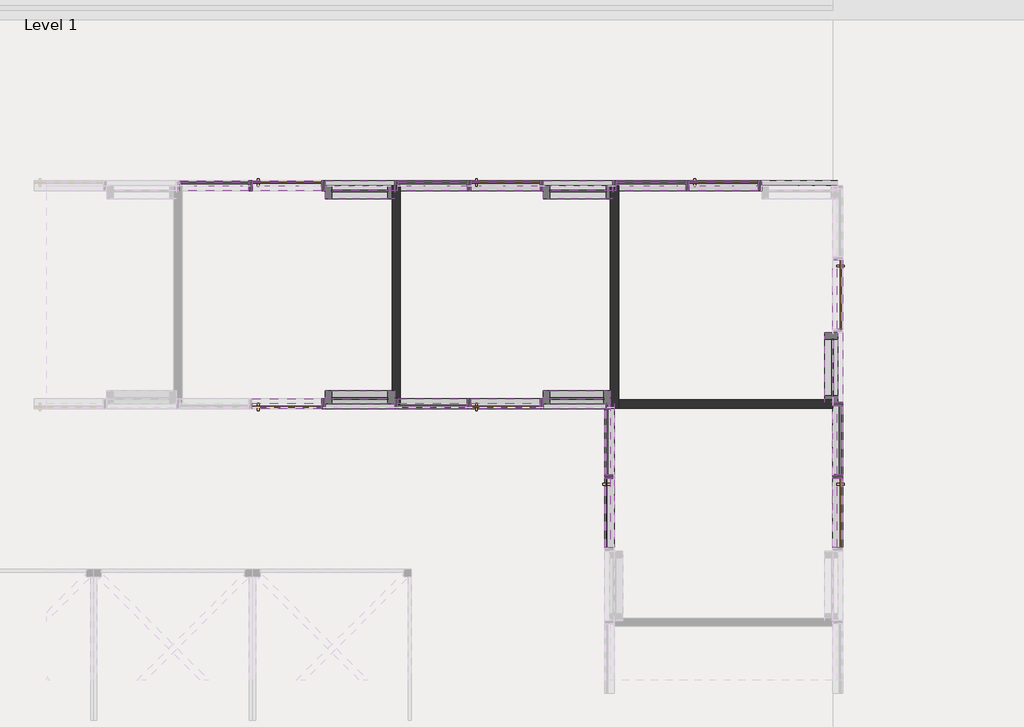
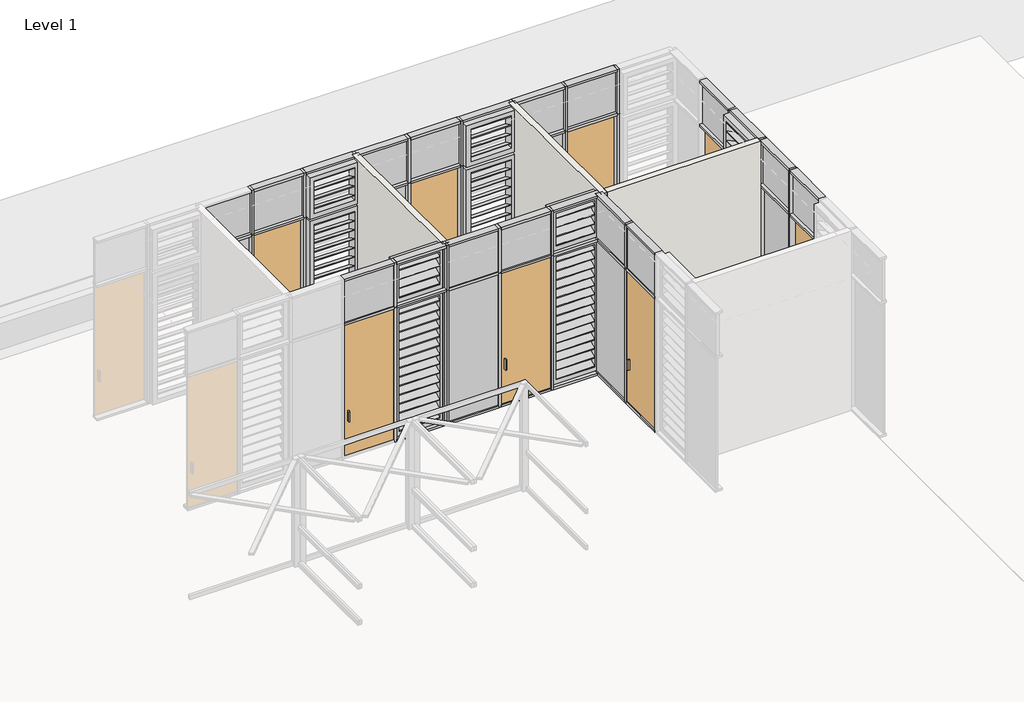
# One storey, part 16 of 32: 82 members, 30 plates, 8 doors, 3 walls.
"""IFC4 building model written with IfcOpenShell, lengths in millimetres."""

from ifc_helpers import new_model, si_unit, frame, origin, place, context, project, spatial, polyline, outline, extrude, faceted_brep, transform, mapped, element, save
from components import curtain_wall_door_single_glass_nz_curtain_wall_door_single_2bf20aac, curtain_wall_door_single_glass_nz_curtain_wall_door_single_ff8afd41, rectangular_mullion_50x150mm_c4504768, rectangular_mullion_50x150mm_6c7cb899, rectangular_mullion_50x150mm_b0af8bb0, rectangular_mullion_50x150mm_bbc1c4ea, rectangular_mullion_50x150mm_1a36453b, rectangular_mullion_50x150mm_0d540e17, rectangular_mullion_50x150mm_ef3a484d, rectangular_mullion_50x150mm_108cdc6f, rectangular_mullion_50x150mm_593aaa1e, rectangular_mullion_50x150mm_375c3673, rectangular_mullion_50x150mm_9239b3be, rectangular_mullion_50x150mm_61df5758, curtain_wall_panel_louver_20805_curtain_wall_panel_louver_4af505d4, curtain_wall_panel_louver_20805_curtain_wall_panel_louver_14332c5b, curtain_wall_panel_louver_20805_curtain_wall_panel_louver_d3fb298f, curtain_wall_panel_glass_louver_20805_curtain_wall_panel_036772b2, curtain_wall_panel_glass_louver_20805_curtain_wall_panel_0f8e40a1, curtain_wall_panel_glass_louver_20805_curtain_wall_panel_1d079b44, system_panel_glazed_a5e8ce8b, system_panel_glazed_a434d42b, system_panel_glazed_53fe5bbb, system_panel_solid_585523e5, system_panel_solid_746005ab, system_panel_solid_10c0fb46

model = new_model("IFC4")

# Units and contexts
model_context = context("Model", 3, world=origin())
ifc_project = project(units=[si_unit("LENGTHUNIT", "METRE", prefix="MILLI")], contexts=[model_context])

# Site, building, storey
site = spatial("IfcSite", under=ifc_project)
building = spatial("IfcBuilding", under=site)
storey = spatial("IfcBuildingStorey", under=building, Name="Level 1", Elevation=2800.0)

# Doors
placement = place(None, origin())
curtain_wall_door_single_glass_nz_curtain_wall_door_single_shape = curtain_wall_door_single_glass_nz_curtain_wall_door_single_2bf20aac(model_context)
element("IfcDoor", 1, ObjectType="Curtain Wall Door-Single-Glass (NZ) : Curtain Wall Door-Single-Glass (NZ)", at=placement, inside=storey, context=model_context, shape_type="MappedRepresentation", body=[
    mapped(curtain_wall_door_single_glass_nz_curtain_wall_door_single_shape, transform((-60180.3056755, 5494.0800404, 2850.0), x_axis=(1.0, 0.0, 0.0), y_axis=(0.0, 1.0, 0.0), z_axis=(0.0, 0.0, 1.0))),
])
element("IfcDoor", 2, ObjectType="Curtain Wall Door-Single-Glass (NZ) : Curtain Wall Door-Single-Glass (NZ)", at=placement, inside=storey, context=model_context, shape_type="MappedRepresentation", body=[
    mapped(curtain_wall_door_single_glass_nz_curtain_wall_door_single_shape, transform((-63480.3056756, 5494.0800404, 2850.0), x_axis=(1.0, 0.0, 0.0), y_axis=(0.0, 1.0, 0.0), z_axis=(0.0, 0.0, 1.0))),
])
element("IfcDoor", 3, ObjectType="Curtain Wall Door-Single-Glass (NZ) : Curtain Wall Door-Single-Glass (NZ)", at=placement, inside=storey, context=model_context, shape_type="MappedRepresentation", body=[
    mapped(curtain_wall_door_single_glass_nz_curtain_wall_door_single_shape, transform((-56880.3056756, 5494.0800404, 2850.0), x_axis=(1.0, 0.0, 0.0), y_axis=(0.0, 1.0, 0.0), z_axis=(0.0, 0.0, 1.0))),
])
element("IfcDoor", 4, ObjectType="Curtain Wall Door-Single-Glass (NZ) : Curtain Wall Door-Single-Glass (NZ)", at=placement, inside=storey, context=model_context, shape_type="MappedRepresentation", body=[
    mapped(curtain_wall_door_single_glass_nz_curtain_wall_door_single_shape, transform((-55155.3056755, 544.0800404, 2850.0), x_axis=(0.0, -1.0, 0.0), y_axis=(1.0, 0.0, 0.0), z_axis=(0.0, 0.0, 1.0))),
])
element("IfcDoor", 5, ObjectType="Curtain Wall Door-Single-Glass (NZ) : Curtain Wall Door-Single-Glass (NZ)", at=placement, inside=storey, context=model_context, shape_type="MappedRepresentation", body=[
    mapped(curtain_wall_door_single_glass_nz_curtain_wall_door_single_shape, transform((-55155.3056755, 3844.0800404, 2850.0), x_axis=(0.0, -1.0, 0.0), y_axis=(1.0, 0.0, 0.0), z_axis=(0.0, 0.0, 1.0))),
])
curtain_wall_door_single_glass_nz_curtain_wall_door_single_2_shape = curtain_wall_door_single_glass_nz_curtain_wall_door_single_ff8afd41(model_context)
element("IfcDoor", 6, ObjectType="Curtain Wall Door-Single-Glass (NZ) : Curtain Wall Door-Single-Glass (NZ)", at=placement, inside=storey, context=model_context, shape_type="MappedRepresentation", body=[
    mapped(curtain_wall_door_single_glass_nz_curtain_wall_door_single_2_shape, transform((-60180.3056755, 2194.0800404, 2850.0), x_axis=(1.0, 0.0, 0.0), y_axis=(0.0, 1.0, 0.0), z_axis=(0.0, 0.0, 1.0))),
])
element("IfcDoor", 7, ObjectType="Curtain Wall Door-Single-Glass (NZ) : Curtain Wall Door-Single-Glass (NZ)", at=placement, inside=storey, context=model_context, shape_type="MappedRepresentation", body=[
    mapped(curtain_wall_door_single_glass_nz_curtain_wall_door_single_2_shape, transform((-63480.3056756, 2194.0800404, 2850.0), x_axis=(1.0, 0.0, 0.0), y_axis=(0.0, 1.0, 0.0), z_axis=(0.0, 0.0, 1.0))),
])
element("IfcDoor", 8, ObjectType="Curtain Wall Door-Single-Glass (NZ) : Curtain Wall Door-Single-Glass (NZ)", at=placement, inside=storey, context=model_context, shape_type="MappedRepresentation", body=[
    mapped(curtain_wall_door_single_glass_nz_curtain_wall_door_single_2_shape, transform((-58605.3056755, 544.0800404, 2850.0), x_axis=(0.0, -1.0, 0.0), y_axis=(1.0, 0.0, 0.0), z_axis=(0.0, 0.0, 1.0))),
])

# Members
rectangular_mullion_50x150mm_shape = rectangular_mullion_50x150mm_c4504768(model_context)
element("IfcMember", 9, ObjectType="Rectangular Mullion : 50x150mm", at=placement, inside=storey, context=model_context, shape_type="MappedRepresentation", body=[
    mapped(rectangular_mullion_50x150mm_shape, transform((-60755.3056755, 5494.0800404, 5800.0), x_axis=(0.0, 0.0, 1.0), y_axis=(0.0, -1.0, 0.0), z_axis=(1.0, 0.0, 0.0))),
])
element("IfcMember", 10, ObjectType="Rectangular Mullion : 50x150mm", at=placement, inside=storey, context=model_context, shape_type="MappedRepresentation", body=[
    mapped(rectangular_mullion_50x150mm_shape, transform((-57455.3056756, 5494.0800404, 5800.0), x_axis=(0.0, 0.0, 1.0), y_axis=(0.0, -1.0, 0.0), z_axis=(1.0, 0.0, 0.0))),
])
element("IfcMember", 11, ObjectType="Rectangular Mullion : 50x150mm", at=placement, inside=storey, context=model_context, shape_type="MappedRepresentation", body=[
    mapped(rectangular_mullion_50x150mm_shape, transform((-58555.3056756, 5494.0800404, 5800.0), x_axis=(0.0, 0.0, 1.0), y_axis=(0.0, -1.0, 0.0), z_axis=(1.0, 0.0, 0.0))),
])
element("IfcMember", 12, ObjectType="Rectangular Mullion : 50x150mm", at=placement, inside=storey, context=model_context, shape_type="MappedRepresentation", body=[
    mapped(rectangular_mullion_50x150mm_shape, transform((-59655.3056756, 5494.0800404, 5800.0), x_axis=(0.0, 0.0, 1.0), y_axis=(0.0, -1.0, 0.0), z_axis=(1.0, 0.0, 0.0))),
])
element("IfcMember", 13, ObjectType="Rectangular Mullion : 50x150mm", at=placement, inside=storey, context=model_context, shape_type="MappedRepresentation", body=[
    mapped(rectangular_mullion_50x150mm_shape, transform((-61855.3056756, 5494.0800404, 5800.0), x_axis=(0.0, 0.0, 1.0), y_axis=(0.0, -1.0, 0.0), z_axis=(1.0, 0.0, 0.0))),
])
element("IfcMember", 14, ObjectType="Rectangular Mullion : 50x150mm", at=placement, inside=storey, context=model_context, shape_type="MappedRepresentation", body=[
    mapped(rectangular_mullion_50x150mm_shape, transform((-62955.3056756, 5494.0800404, 5800.0), x_axis=(0.0, 0.0, 1.0), y_axis=(0.0, -1.0, 0.0), z_axis=(1.0, 0.0, 0.0))),
])
element("IfcMember", 15, ObjectType="Rectangular Mullion : 50x150mm", at=placement, inside=storey, context=model_context, shape_type="MappedRepresentation", body=[
    mapped(rectangular_mullion_50x150mm_shape, transform((-64055.3056756, 5494.0800404, 5800.0), x_axis=(0.0, 0.0, 1.0), y_axis=(0.0, -1.0, 0.0), z_axis=(1.0, 0.0, 0.0))),
])
element("IfcMember", 16, ObjectType="Rectangular Mullion : 50x150mm", at=placement, inside=storey, context=model_context, shape_type="MappedRepresentation", body=[
    mapped(rectangular_mullion_50x150mm_shape, transform((-56355.3056756, 5494.0800404, 5800.0), x_axis=(0.0, 0.0, 1.0), y_axis=(0.0, -1.0, 0.0), z_axis=(1.0, 0.0, 0.0))),
])
element("IfcMember", 17, ObjectType="Rectangular Mullion : 50x150mm", at=placement, inside=storey, context=model_context, shape_type="MappedRepresentation", body=[
    mapped(rectangular_mullion_50x150mm_shape, transform((-55155.3056755, 19.0800404, 5800.0), x_axis=(0.0, 0.0, 1.0), y_axis=(-1.0, 0.0, 0.0), z_axis=(0.0, -1.0, 0.0))),
])
rectangular_mullion_50x150mm_2_shape = rectangular_mullion_50x150mm_6c7cb899(model_context)
element("IfcMember", 18, ObjectType="Rectangular Mullion : 50x150mm", at=placement, inside=storey, context=model_context, shape_type="MappedRepresentation", body=[
    mapped(rectangular_mullion_50x150mm_2_shape, transform((-60730.3056755, 5494.0800404, 2800.0), x_axis=(1.0, 0.0, 0.0), y_axis=(0.0, -1.0, 0.0), z_axis=(0.0, 0.0, -1.0))),
])
element("IfcMember", 19, ObjectType="Rectangular Mullion : 50x150mm", at=placement, inside=storey, context=model_context, shape_type="MappedRepresentation", body=[
    mapped(rectangular_mullion_50x150mm_2_shape, transform((-59630.3056756, 5494.0800404, 2800.0), x_axis=(1.0, 0.0, 0.0), y_axis=(0.0, -1.0, 0.0), z_axis=(0.0, 0.0, -1.0))),
])
element("IfcMember", 20, ObjectType="Rectangular Mullion : 50x150mm", at=placement, inside=storey, context=model_context, shape_type="MappedRepresentation", body=[
    mapped(rectangular_mullion_50x150mm_2_shape, transform((-61830.3056756, 5494.0800404, 2800.0), x_axis=(1.0, 0.0, 0.0), y_axis=(0.0, -1.0, 0.0), z_axis=(0.0, 0.0, -1.0))),
])
element("IfcMember", 21, ObjectType="Rectangular Mullion : 50x150mm", at=placement, inside=storey, context=model_context, shape_type="MappedRepresentation", body=[
    mapped(rectangular_mullion_50x150mm_2_shape, transform((-58530.3056756, 5494.0800404, 2800.0), x_axis=(1.0, 0.0, 0.0), y_axis=(0.0, -1.0, 0.0), z_axis=(0.0, 0.0, -1.0))),
])
element("IfcMember", 22, ObjectType="Rectangular Mullion : 50x150mm", at=placement, inside=storey, context=model_context, shape_type="MappedRepresentation", body=[
    mapped(rectangular_mullion_50x150mm_2_shape, transform((-62930.3056756, 5494.0800404, 2800.0), x_axis=(1.0, 0.0, 0.0), y_axis=(0.0, -1.0, 0.0), z_axis=(0.0, 0.0, -1.0))),
])
element("IfcMember", 23, ObjectType="Rectangular Mullion : 50x150mm", at=placement, inside=storey, context=model_context, shape_type="MappedRepresentation", body=[
    mapped(rectangular_mullion_50x150mm_2_shape, transform((-64030.3056756, 5494.0800404, 2800.0), x_axis=(1.0, 0.0, 0.0), y_axis=(0.0, -1.0, 0.0), z_axis=(0.0, 0.0, -1.0))),
])
element("IfcMember", 24, ObjectType="Rectangular Mullion : 50x150mm", at=placement, inside=storey, context=model_context, shape_type="MappedRepresentation", body=[
    mapped(rectangular_mullion_50x150mm_2_shape, transform((-57430.3056756, 5494.0800404, 2800.0), x_axis=(1.0, 0.0, 0.0), y_axis=(0.0, -1.0, 0.0), z_axis=(0.0, 0.0, -1.0))),
])
element("IfcMember", 25, ObjectType="Rectangular Mullion : 50x150mm", at=placement, inside=storey, context=model_context, shape_type="MappedRepresentation", body=[
    mapped(rectangular_mullion_50x150mm_2_shape, transform((-56330.3056756, 5494.0800404, 2800.0), x_axis=(1.0, 0.0, 0.0), y_axis=(0.0, -1.0, 0.0), z_axis=(0.0, 0.0, -1.0))),
])
element("IfcMember", 26, ObjectType="Rectangular Mullion : 50x150mm", at=placement, inside=storey, context=model_context, shape_type="MappedRepresentation", body=[
    mapped(rectangular_mullion_50x150mm_2_shape, transform((-55155.3056755, 1094.0800404, 2800.0), x_axis=(0.0, -1.0, 0.0), y_axis=(-1.0, 0.0, 0.0), z_axis=(0.0, 0.0, -1.0))),
])
rectangular_mullion_50x150mm_3_shape = rectangular_mullion_50x150mm_b0af8bb0(model_context)
element("IfcMember", 27, ObjectType="Rectangular Mullion : 50x150mm", at=placement, inside=storey, context=model_context, shape_type="MappedRepresentation", body=[
    mapped(rectangular_mullion_50x150mm_3_shape, transform((-61805.3056756, 5494.0800404, 2800.0), x_axis=(0.0, 0.0, -1.0), y_axis=(0.0, -1.0, 0.0), z_axis=(-1.0, 0.0, 0.0))),
])
element("IfcMember", 28, ObjectType="Rectangular Mullion : 50x150mm", at=placement, inside=storey, context=model_context, shape_type="MappedRepresentation", body=[
    mapped(rectangular_mullion_50x150mm_3_shape, transform((-58505.3056756, 5494.0800404, 2800.0), x_axis=(0.0, 0.0, -1.0), y_axis=(0.0, -1.0, 0.0), z_axis=(-1.0, 0.0, 0.0))),
])
element("IfcMember", 29, ObjectType="Rectangular Mullion : 50x150mm", at=placement, inside=storey, context=model_context, shape_type="MappedRepresentation", body=[
    mapped(rectangular_mullion_50x150mm_3_shape, transform((-59605.3056756, 5494.0800404, 2800.0), x_axis=(0.0, 0.0, -1.0), y_axis=(0.0, -1.0, 0.0), z_axis=(-1.0, 0.0, 0.0))),
])
element("IfcMember", 30, ObjectType="Rectangular Mullion : 50x150mm", at=placement, inside=storey, context=model_context, shape_type="MappedRepresentation", body=[
    mapped(rectangular_mullion_50x150mm_3_shape, transform((-60705.3056755, 5494.0800404, 2800.0), x_axis=(0.0, 0.0, -1.0), y_axis=(0.0, -1.0, 0.0), z_axis=(-1.0, 0.0, 0.0))),
])
element("IfcMember", 31, ObjectType="Rectangular Mullion : 50x150mm", at=placement, inside=storey, context=model_context, shape_type="MappedRepresentation", body=[
    mapped(rectangular_mullion_50x150mm_3_shape, transform((-62905.3056756, 5494.0800404, 2800.0), x_axis=(0.0, 0.0, -1.0), y_axis=(0.0, -1.0, 0.0), z_axis=(-1.0, 0.0, 0.0))),
])
element("IfcMember", 32, ObjectType="Rectangular Mullion : 50x150mm", at=placement, inside=storey, context=model_context, shape_type="MappedRepresentation", body=[
    mapped(rectangular_mullion_50x150mm_3_shape, transform((-57405.3056756, 5494.0800404, 2800.0), x_axis=(0.0, 0.0, -1.0), y_axis=(0.0, -1.0, 0.0), z_axis=(-1.0, 0.0, 0.0))),
])
element("IfcMember", 33, ObjectType="Rectangular Mullion : 50x150mm", at=placement, inside=storey, context=model_context, shape_type="MappedRepresentation", body=[
    mapped(rectangular_mullion_50x150mm_3_shape, transform((-55155.3056755, 1069.0800404, 2800.0), x_axis=(0.0, 0.0, -1.0), y_axis=(-1.0, 0.0, 0.0), z_axis=(0.0, 1.0, 0.0))),
])
rectangular_mullion_50x150mm_4_shape = rectangular_mullion_50x150mm_bbc1c4ea(model_context)
element("IfcMember", 34, ObjectType="Rectangular Mullion : 50x150mm", at=placement, inside=storey, context=model_context, shape_type="MappedRepresentation", body=[
    mapped(rectangular_mullion_50x150mm_4_shape, transform((-60730.3056755, 5494.0800404, 5800.0), x_axis=(1.0, 0.0, 0.0), y_axis=(0.0, -1.0, 0.0), z_axis=(0.0, 0.0, -1.0))),
])
element("IfcMember", 35, ObjectType="Rectangular Mullion : 50x150mm", at=placement, inside=storey, context=model_context, shape_type="MappedRepresentation", body=[
    mapped(rectangular_mullion_50x150mm_4_shape, transform((-59630.3056756, 5494.0800404, 5800.0), x_axis=(1.0, 0.0, 0.0), y_axis=(0.0, -1.0, 0.0), z_axis=(0.0, 0.0, -1.0))),
])
element("IfcMember", 36, ObjectType="Rectangular Mullion : 50x150mm", at=placement, inside=storey, context=model_context, shape_type="MappedRepresentation", body=[
    mapped(rectangular_mullion_50x150mm_4_shape, transform((-61830.3056756, 5494.0800404, 5800.0), x_axis=(1.0, 0.0, 0.0), y_axis=(0.0, -1.0, 0.0), z_axis=(0.0, 0.0, -1.0))),
])
element("IfcMember", 37, ObjectType="Rectangular Mullion : 50x150mm", at=placement, inside=storey, context=model_context, shape_type="MappedRepresentation", body=[
    mapped(rectangular_mullion_50x150mm_4_shape, transform((-58530.3056756, 5494.0800404, 5800.0), x_axis=(1.0, 0.0, 0.0), y_axis=(0.0, -1.0, 0.0), z_axis=(0.0, 0.0, -1.0))),
])
element("IfcMember", 38, ObjectType="Rectangular Mullion : 50x150mm", at=placement, inside=storey, context=model_context, shape_type="MappedRepresentation", body=[
    mapped(rectangular_mullion_50x150mm_4_shape, transform((-62930.3056756, 5494.0800404, 5800.0), x_axis=(1.0, 0.0, 0.0), y_axis=(0.0, -1.0, 0.0), z_axis=(0.0, 0.0, -1.0))),
])
element("IfcMember", 39, ObjectType="Rectangular Mullion : 50x150mm", at=placement, inside=storey, context=model_context, shape_type="MappedRepresentation", body=[
    mapped(rectangular_mullion_50x150mm_4_shape, transform((-64030.3056756, 5494.0800404, 5800.0), x_axis=(1.0, 0.0, 0.0), y_axis=(0.0, -1.0, 0.0), z_axis=(0.0, 0.0, -1.0))),
])
element("IfcMember", 40, ObjectType="Rectangular Mullion : 50x150mm", at=placement, inside=storey, context=model_context, shape_type="MappedRepresentation", body=[
    mapped(rectangular_mullion_50x150mm_4_shape, transform((-57430.3056756, 5494.0800404, 5800.0), x_axis=(1.0, 0.0, 0.0), y_axis=(0.0, -1.0, 0.0), z_axis=(0.0, 0.0, -1.0))),
])
element("IfcMember", 41, ObjectType="Rectangular Mullion : 50x150mm", at=placement, inside=storey, context=model_context, shape_type="MappedRepresentation", body=[
    mapped(rectangular_mullion_50x150mm_4_shape, transform((-56330.3056756, 5494.0800404, 5800.0), x_axis=(1.0, 0.0, 0.0), y_axis=(0.0, -1.0, 0.0), z_axis=(0.0, 0.0, -1.0))),
])
element("IfcMember", 42, ObjectType="Rectangular Mullion : 50x150mm", at=placement, inside=storey, context=model_context, shape_type="MappedRepresentation", body=[
    mapped(rectangular_mullion_50x150mm_4_shape, transform((-55155.3056755, 1094.0800404, 5800.0), x_axis=(0.0, -1.0, 0.0), y_axis=(-1.0, 0.0, 0.0), z_axis=(0.0, 0.0, -1.0))),
])
rectangular_mullion_50x150mm_5_shape = rectangular_mullion_50x150mm_1a36453b(model_context)
element("IfcMember", 43, ObjectType="Rectangular Mullion : 50x150mm", at=placement, inside=storey, context=model_context, shape_type="MappedRepresentation", body=[
    mapped(rectangular_mullion_50x150mm_5_shape, transform((-61855.3056756, 5494.0800404, 6800.0), x_axis=(0.0, 0.0, 1.0), y_axis=(0.0, -1.0, 0.0), z_axis=(1.0, 0.0, 0.0))),
])
element("IfcMember", 44, ObjectType="Rectangular Mullion : 50x150mm", at=placement, inside=storey, context=model_context, shape_type="MappedRepresentation", body=[
    mapped(rectangular_mullion_50x150mm_5_shape, transform((-56355.3056756, 5494.0800404, 6800.0), x_axis=(0.0, 0.0, 1.0), y_axis=(0.0, -1.0, 0.0), z_axis=(1.0, 0.0, 0.0))),
])
element("IfcMember", 45, ObjectType="Rectangular Mullion : 50x150mm", at=placement, inside=storey, context=model_context, shape_type="MappedRepresentation", body=[
    mapped(rectangular_mullion_50x150mm_5_shape, transform((-58555.3056756, 5494.0800404, 6800.0), x_axis=(0.0, 0.0, 1.0), y_axis=(0.0, -1.0, 0.0), z_axis=(1.0, 0.0, 0.0))),
])
element("IfcMember", 46, ObjectType="Rectangular Mullion : 50x150mm", at=placement, inside=storey, context=model_context, shape_type="MappedRepresentation", body=[
    mapped(rectangular_mullion_50x150mm_5_shape, transform((-59655.3056756, 5494.0800404, 6800.0), x_axis=(0.0, 0.0, 1.0), y_axis=(0.0, -1.0, 0.0), z_axis=(1.0, 0.0, 0.0))),
])
element("IfcMember", 47, ObjectType="Rectangular Mullion : 50x150mm", at=placement, inside=storey, context=model_context, shape_type="MappedRepresentation", body=[
    mapped(rectangular_mullion_50x150mm_5_shape, transform((-60755.3056755, 5494.0800404, 6800.0), x_axis=(0.0, 0.0, 1.0), y_axis=(0.0, -1.0, 0.0), z_axis=(1.0, 0.0, 0.0))),
])
element("IfcMember", 48, ObjectType="Rectangular Mullion : 50x150mm", at=placement, inside=storey, context=model_context, shape_type="MappedRepresentation", body=[
    mapped(rectangular_mullion_50x150mm_5_shape, transform((-62955.3056756, 5494.0800404, 6800.0), x_axis=(0.0, 0.0, 1.0), y_axis=(0.0, -1.0, 0.0), z_axis=(1.0, 0.0, 0.0))),
])
element("IfcMember", 49, ObjectType="Rectangular Mullion : 50x150mm", at=placement, inside=storey, context=model_context, shape_type="MappedRepresentation", body=[
    mapped(rectangular_mullion_50x150mm_5_shape, transform((-57455.3056756, 5494.0800404, 6800.0), x_axis=(0.0, 0.0, 1.0), y_axis=(0.0, -1.0, 0.0), z_axis=(1.0, 0.0, 0.0))),
])
element("IfcMember", 50, ObjectType="Rectangular Mullion : 50x150mm", at=placement, inside=storey, context=model_context, shape_type="MappedRepresentation", body=[
    mapped(rectangular_mullion_50x150mm_5_shape, transform((-55155.3056755, 19.0800404, 6800.0), x_axis=(0.0, 0.0, 1.0), y_axis=(-1.0, 0.0, 0.0), z_axis=(0.0, -1.0, 0.0))),
])
element("IfcMember", 51, ObjectType="Rectangular Mullion : 50x150mm", at=placement, inside=storey, context=model_context, shape_type="MappedRepresentation", body=[
    mapped(rectangular_mullion_50x150mm_5_shape, transform((-55155.3056755, 1119.0800404, 6800.0), x_axis=(0.0, 0.0, 1.0), y_axis=(-1.0, 0.0, 0.0), z_axis=(0.0, -1.0, 0.0))),
])
element("IfcMember", 52, ObjectType="Rectangular Mullion : 50x150mm", at=placement, inside=storey, context=model_context, shape_type="MappedRepresentation", body=[
    mapped(rectangular_mullion_50x150mm_4_shape, transform((-60730.3056755, 2194.0800404, 5800.0), x_axis=(1.0, 0.0, 0.0), y_axis=(0.0, -1.0, 0.0), z_axis=(0.0, 0.0, -1.0))),
])
element("IfcMember", 53, ObjectType="Rectangular Mullion : 50x150mm", at=placement, inside=storey, context=model_context, shape_type="MappedRepresentation", body=[
    mapped(rectangular_mullion_50x150mm_4_shape, transform((-59630.3056756, 2194.0800404, 5800.0), x_axis=(1.0, 0.0, 0.0), y_axis=(0.0, -1.0, 0.0), z_axis=(0.0, 0.0, -1.0))),
])
element("IfcMember", 54, ObjectType="Rectangular Mullion : 50x150mm", at=placement, inside=storey, context=model_context, shape_type="MappedRepresentation", body=[
    mapped(rectangular_mullion_50x150mm_4_shape, transform((-61830.3056756, 2194.0800404, 5800.0), x_axis=(1.0, 0.0, 0.0), y_axis=(0.0, -1.0, 0.0), z_axis=(0.0, 0.0, -1.0))),
])
element("IfcMember", 55, ObjectType="Rectangular Mullion : 50x150mm", at=placement, inside=storey, context=model_context, shape_type="MappedRepresentation", body=[
    mapped(rectangular_mullion_50x150mm_4_shape, transform((-62930.3056756, 2194.0800404, 5800.0), x_axis=(1.0, 0.0, 0.0), y_axis=(0.0, -1.0, 0.0), z_axis=(0.0, 0.0, -1.0))),
])
element("IfcMember", 56, ObjectType="Rectangular Mullion : 50x150mm", at=placement, inside=storey, context=model_context, shape_type="MappedRepresentation", body=[
    mapped(rectangular_mullion_50x150mm_4_shape, transform((-58605.3056755, 1094.0800404, 5800.0), x_axis=(0.0, -1.0, 0.0), y_axis=(-1.0, 0.0, 0.0), z_axis=(0.0, 0.0, -1.0))),
])
element("IfcMember", 57, ObjectType="Rectangular Mullion : 50x150mm", at=placement, inside=storey, context=model_context, shape_type="MappedRepresentation", body=[
    mapped(rectangular_mullion_50x150mm_2_shape, transform((-60730.3056755, 2194.0800404, 2800.0), x_axis=(1.0, 0.0, 0.0), y_axis=(0.0, -1.0, 0.0), z_axis=(0.0, 0.0, -1.0))),
])
element("IfcMember", 58, ObjectType="Rectangular Mullion : 50x150mm", at=placement, inside=storey, context=model_context, shape_type="MappedRepresentation", body=[
    mapped(rectangular_mullion_50x150mm_2_shape, transform((-59630.3056756, 2194.0800404, 2800.0), x_axis=(1.0, 0.0, 0.0), y_axis=(0.0, -1.0, 0.0), z_axis=(0.0, 0.0, -1.0))),
])
element("IfcMember", 59, ObjectType="Rectangular Mullion : 50x150mm", at=placement, inside=storey, context=model_context, shape_type="MappedRepresentation", body=[
    mapped(rectangular_mullion_50x150mm_2_shape, transform((-61830.3056756, 2194.0800404, 2800.0), x_axis=(1.0, 0.0, 0.0), y_axis=(0.0, -1.0, 0.0), z_axis=(0.0, 0.0, -1.0))),
])
element("IfcMember", 60, ObjectType="Rectangular Mullion : 50x150mm", at=placement, inside=storey, context=model_context, shape_type="MappedRepresentation", body=[
    mapped(rectangular_mullion_50x150mm_2_shape, transform((-62930.3056756, 2194.0800404, 2800.0), x_axis=(1.0, 0.0, 0.0), y_axis=(0.0, -1.0, 0.0), z_axis=(0.0, 0.0, -1.0))),
])
element("IfcMember", 61, ObjectType="Rectangular Mullion : 50x150mm", at=placement, inside=storey, context=model_context, shape_type="MappedRepresentation", body=[
    mapped(rectangular_mullion_50x150mm_2_shape, transform((-58605.3056755, 1094.0800404, 2800.0), x_axis=(0.0, -1.0, 0.0), y_axis=(-1.0, 0.0, 0.0), z_axis=(0.0, 0.0, -1.0))),
])
rectangular_mullion_50x150mm_6_shape = rectangular_mullion_50x150mm_0d540e17(model_context)
element("IfcMember", 62, ObjectType="Rectangular Mullion : 50x150mm", at=placement, inside=storey, context=model_context, shape_type="MappedRepresentation", body=[
    mapped(rectangular_mullion_50x150mm_6_shape, transform((-60755.3056755, 2194.0800404, 5800.0), x_axis=(0.0, 0.0, 1.0), y_axis=(0.0, -1.0, 0.0), z_axis=(1.0, 0.0, 0.0))),
])
element("IfcMember", 63, ObjectType="Rectangular Mullion : 50x150mm", at=placement, inside=storey, context=model_context, shape_type="MappedRepresentation", body=[
    mapped(rectangular_mullion_50x150mm_6_shape, transform((-59655.3056756, 2194.0800404, 5800.0), x_axis=(0.0, 0.0, 1.0), y_axis=(0.0, -1.0, 0.0), z_axis=(1.0, 0.0, 0.0))),
])
element("IfcMember", 64, ObjectType="Rectangular Mullion : 50x150mm", at=placement, inside=storey, context=model_context, shape_type="MappedRepresentation", body=[
    mapped(rectangular_mullion_50x150mm_6_shape, transform((-61855.3056756, 2194.0800404, 5800.0), x_axis=(0.0, 0.0, 1.0), y_axis=(0.0, -1.0, 0.0), z_axis=(1.0, 0.0, 0.0))),
])
element("IfcMember", 65, ObjectType="Rectangular Mullion : 50x150mm", at=placement, inside=storey, context=model_context, shape_type="MappedRepresentation", body=[
    mapped(rectangular_mullion_50x150mm_6_shape, transform((-62955.3056756, 2194.0800404, 5800.0), x_axis=(0.0, 0.0, 1.0), y_axis=(0.0, -1.0, 0.0), z_axis=(1.0, 0.0, 0.0))),
])
element("IfcMember", 66, ObjectType="Rectangular Mullion : 50x150mm", at=placement, inside=storey, context=model_context, shape_type="MappedRepresentation", body=[
    mapped(rectangular_mullion_50x150mm_6_shape, transform((-58605.3056755, 19.0800404, 5800.0), x_axis=(0.0, 0.0, 1.0), y_axis=(-1.0, 0.0, 0.0), z_axis=(0.0, -1.0, 0.0))),
])
rectangular_mullion_50x150mm_7_shape = rectangular_mullion_50x150mm_ef3a484d(model_context)
element("IfcMember", 67, ObjectType="Rectangular Mullion : 50x150mm", at=placement, inside=storey, context=model_context, shape_type="MappedRepresentation", body=[
    mapped(rectangular_mullion_50x150mm_7_shape, transform((-58605.3056755, 1119.0800404, 5800.0), x_axis=(0.0, 0.0, 1.0), y_axis=(-1.0, 0.0, 0.0), z_axis=(0.0, -1.0, 0.0))),
])
rectangular_mullion_50x150mm_8_shape = rectangular_mullion_50x150mm_108cdc6f(model_context)
element("IfcMember", 68, ObjectType="Rectangular Mullion : 50x150mm", at=placement, inside=storey, context=model_context, shape_type="MappedRepresentation", body=[
    mapped(rectangular_mullion_50x150mm_8_shape, transform((-61805.3056756, 2194.0800404, 2800.0), x_axis=(0.0, 0.0, -1.0), y_axis=(0.0, -1.0, 0.0), z_axis=(-1.0, 0.0, 0.0))),
])
element("IfcMember", 69, ObjectType="Rectangular Mullion : 50x150mm", at=placement, inside=storey, context=model_context, shape_type="MappedRepresentation", body=[
    mapped(rectangular_mullion_50x150mm_8_shape, transform((-60705.3056755, 2194.0800404, 2800.0), x_axis=(0.0, 0.0, -1.0), y_axis=(0.0, -1.0, 0.0), z_axis=(-1.0, 0.0, 0.0))),
])
element("IfcMember", 70, ObjectType="Rectangular Mullion : 50x150mm", at=placement, inside=storey, context=model_context, shape_type="MappedRepresentation", body=[
    mapped(rectangular_mullion_50x150mm_8_shape, transform((-62905.3056756, 2194.0800404, 2800.0), x_axis=(0.0, 0.0, -1.0), y_axis=(0.0, -1.0, 0.0), z_axis=(-1.0, 0.0, 0.0))),
])
element("IfcMember", 71, ObjectType="Rectangular Mullion : 50x150mm", at=placement, inside=storey, context=model_context, shape_type="MappedRepresentation", body=[
    mapped(rectangular_mullion_50x150mm_8_shape, transform((-58605.3056755, 1069.0800404, 2800.0), x_axis=(0.0, 0.0, -1.0), y_axis=(-1.0, 0.0, 0.0), z_axis=(0.0, 1.0, 0.0))),
])
rectangular_mullion_50x150mm_9_shape = rectangular_mullion_50x150mm_593aaa1e(model_context)
element("IfcMember", 72, ObjectType="Rectangular Mullion : 50x150mm", at=placement, inside=storey, context=model_context, shape_type="MappedRepresentation", body=[
    mapped(rectangular_mullion_50x150mm_9_shape, transform((-58605.3056755, 2194.0800404, 2800.0), x_axis=(0.0, 0.0, -1.0), y_axis=(-1.0, 0.0, 0.0), z_axis=(0.0, 1.0, 0.0))),
])
element("IfcMember", 73, ObjectType="Rectangular Mullion : 50x150mm", at=placement, inside=storey, context=model_context, shape_type="MappedRepresentation", body=[
    mapped(rectangular_mullion_50x150mm_5_shape, transform((-61855.3056756, 2194.0800404, 6800.0), x_axis=(0.0, 0.0, 1.0), y_axis=(0.0, -1.0, 0.0), z_axis=(1.0, 0.0, 0.0))),
])
element("IfcMember", 74, ObjectType="Rectangular Mullion : 50x150mm", at=placement, inside=storey, context=model_context, shape_type="MappedRepresentation", body=[
    mapped(rectangular_mullion_50x150mm_5_shape, transform((-59655.3056756, 2194.0800404, 6800.0), x_axis=(0.0, 0.0, 1.0), y_axis=(0.0, -1.0, 0.0), z_axis=(1.0, 0.0, 0.0))),
])
element("IfcMember", 75, ObjectType="Rectangular Mullion : 50x150mm", at=placement, inside=storey, context=model_context, shape_type="MappedRepresentation", body=[
    mapped(rectangular_mullion_50x150mm_5_shape, transform((-60755.3056755, 2194.0800404, 6800.0), x_axis=(0.0, 0.0, 1.0), y_axis=(0.0, -1.0, 0.0), z_axis=(1.0, 0.0, 0.0))),
])
element("IfcMember", 76, ObjectType="Rectangular Mullion : 50x150mm", at=placement, inside=storey, context=model_context, shape_type="MappedRepresentation", body=[
    mapped(rectangular_mullion_50x150mm_5_shape, transform((-62955.3056756, 2194.0800404, 6800.0), x_axis=(0.0, 0.0, 1.0), y_axis=(0.0, -1.0, 0.0), z_axis=(1.0, 0.0, 0.0))),
])
element("IfcMember", 77, ObjectType="Rectangular Mullion : 50x150mm", at=placement, inside=storey, context=model_context, shape_type="MappedRepresentation", body=[
    mapped(rectangular_mullion_50x150mm_5_shape, transform((-58605.3056755, 19.0800404, 6800.0), x_axis=(0.0, 0.0, 1.0), y_axis=(-1.0, 0.0, 0.0), z_axis=(0.0, -1.0, 0.0))),
])
element("IfcMember", 78, ObjectType="Rectangular Mullion : 50x150mm", at=placement, inside=storey, context=model_context, shape_type="MappedRepresentation", body=[
    mapped(rectangular_mullion_50x150mm_9_shape, transform((-58605.3056755, 1119.0800404, 6800.0), x_axis=(0.0, 0.0, 1.0), y_axis=(-1.0, 0.0, 0.0), z_axis=(0.0, -1.0, 0.0))),
])
rectangular_mullion_50x150mm_10_shape = rectangular_mullion_50x150mm_375c3673(model_context)
element("IfcMember", 79, ObjectType="Rectangular Mullion : 50x150mm", at=placement, inside=storey, context=model_context, shape_type="MappedRepresentation", body=[
    mapped(rectangular_mullion_50x150mm_10_shape, transform((-58592.8056755, 2194.0800404, 5800.0), x_axis=(0.0, 0.0, 1.0), y_axis=(0.0, -1.0, 0.0), z_axis=(1.0, 0.0, 0.0))),
])
rectangular_mullion_50x150mm_11_shape = rectangular_mullion_50x150mm_9239b3be(model_context)
element("IfcMember", 80, ObjectType="Rectangular Mullion : 50x150mm", at=placement, inside=storey, context=model_context, shape_type="MappedRepresentation", body=[
    mapped(rectangular_mullion_50x150mm_11_shape, transform((-59605.3056756, 2194.0800404, 2800.0), x_axis=(0.0, 0.0, -1.0), y_axis=(0.0, -1.0, 0.0), z_axis=(-1.0, 0.0, 0.0))),
])
element("IfcMember", 81, ObjectType="Rectangular Mullion : 50x150mm", at=placement, inside=storey, context=model_context, shape_type="MappedRepresentation", body=[
    mapped(rectangular_mullion_50x150mm_11_shape, transform((-58592.8056755, 2194.0800404, 6800.0), x_axis=(0.0, 0.0, 1.0), y_axis=(0.0, -1.0, 0.0), z_axis=(1.0, 0.0, 0.0))),
])
element("IfcMember", 82, ObjectType="Rectangular Mullion : 50x150mm", at=placement, inside=storey, context=model_context, shape_type="MappedRepresentation", body=[
    mapped(rectangular_mullion_50x150mm_6_shape, transform((-55155.3056755, 3319.0800404, 5800.0), x_axis=(0.0, 0.0, 1.0), y_axis=(-1.0, 0.0, 0.0), z_axis=(0.0, -1.0, 0.0))),
])
element("IfcMember", 83, ObjectType="Rectangular Mullion : 50x150mm", at=placement, inside=storey, context=model_context, shape_type="MappedRepresentation", body=[
    mapped(rectangular_mullion_50x150mm_6_shape, transform((-55155.3056755, 2219.0800404, 5800.0), x_axis=(0.0, 0.0, 1.0), y_axis=(-1.0, 0.0, 0.0), z_axis=(0.0, -1.0, 0.0))),
])
element("IfcMember", 84, ObjectType="Rectangular Mullion : 50x150mm", at=placement, inside=storey, context=model_context, shape_type="MappedRepresentation", body=[
    mapped(rectangular_mullion_50x150mm_6_shape, transform((-55155.3056755, 1119.0800404, 5800.0), x_axis=(0.0, 0.0, 1.0), y_axis=(-1.0, 0.0, 0.0), z_axis=(0.0, -1.0, 0.0))),
])
element("IfcMember", 85, ObjectType="Rectangular Mullion : 50x150mm", at=placement, inside=storey, context=model_context, shape_type="MappedRepresentation", body=[
    mapped(rectangular_mullion_50x150mm_8_shape, transform((-55155.3056755, 2169.0800404, 2800.0), x_axis=(0.0, 0.0, -1.0), y_axis=(-1.0, 0.0, 0.0), z_axis=(0.0, 1.0, 0.0))),
])
element("IfcMember", 86, ObjectType="Rectangular Mullion : 50x150mm", at=placement, inside=storey, context=model_context, shape_type="MappedRepresentation", body=[
    mapped(rectangular_mullion_50x150mm_5_shape, transform((-55155.3056755, 3319.0800404, 6800.0), x_axis=(0.0, 0.0, 1.0), y_axis=(-1.0, 0.0, 0.0), z_axis=(0.0, -1.0, 0.0))),
])
element("IfcMember", 87, ObjectType="Rectangular Mullion : 50x150mm", at=placement, inside=storey, context=model_context, shape_type="MappedRepresentation", body=[
    mapped(rectangular_mullion_50x150mm_5_shape, transform((-55155.3056755, 2219.0800404, 6800.0), x_axis=(0.0, 0.0, 1.0), y_axis=(-1.0, 0.0, 0.0), z_axis=(0.0, -1.0, 0.0))),
])
element("IfcMember", 88, ObjectType="Rectangular Mullion : 50x150mm", at=placement, inside=storey, context=model_context, shape_type="MappedRepresentation", body=[
    mapped(rectangular_mullion_50x150mm_4_shape, transform((-55155.3056755, 2194.0800404, 5800.0), x_axis=(0.0, -1.0, 0.0), y_axis=(-1.0, 0.0, 0.0), z_axis=(0.0, 0.0, -1.0))),
])
element("IfcMember", 89, ObjectType="Rectangular Mullion : 50x150mm", at=placement, inside=storey, context=model_context, shape_type="MappedRepresentation", body=[
    mapped(rectangular_mullion_50x150mm_2_shape, transform((-55155.3056755, 2194.0800404, 2800.0), x_axis=(0.0, -1.0, 0.0), y_axis=(-1.0, 0.0, 0.0), z_axis=(0.0, 0.0, -1.0))),
])
rectangular_mullion_50x150mm_12_shape = rectangular_mullion_50x150mm_61df5758(model_context)
element("IfcMember", 90, ObjectType="Rectangular Mullion : 50x150mm", at=placement, inside=storey, context=model_context, shape_type="MappedRepresentation", body=[
    mapped(rectangular_mullion_50x150mm_12_shape, transform((-56305.3056756, 5494.0800404, 2800.0), x_axis=(0.0, 0.0, -1.0), y_axis=(0.0, -1.0, 0.0), z_axis=(-1.0, 0.0, 0.0))),
])

# Plates
curtain_wall_panel_louver_20805_curtain_wall_panel_louver_shape = curtain_wall_panel_louver_20805_curtain_wall_panel_louver_4af505d4(model_context)
element("IfcPlate", 91, ObjectType="Curtain_wall_panel_-_Louver_20805 : Curtain_wall_panel_-_Louver_20805", at=placement, inside=storey, context=model_context, shape_type="MappedRepresentation", body=[
    mapped(curtain_wall_panel_louver_20805_curtain_wall_panel_louver_shape, transform((-59080.3056756, 5494.0800404, 5825.0), x_axis=(1.0, 0.0, 0.0), y_axis=(0.0, 1.0, 0.0), z_axis=(0.0, 0.0, 1.0))),
])
element("IfcPlate", 92, ObjectType="Curtain_wall_panel_-_Louver_20805 : Curtain_wall_panel_-_Louver_20805", at=placement, inside=storey, context=model_context, shape_type="MappedRepresentation", body=[
    mapped(curtain_wall_panel_louver_20805_curtain_wall_panel_louver_shape, transform((-62380.3056756, 5494.0800404, 5825.0), x_axis=(1.0, 0.0, 0.0), y_axis=(0.0, 1.0, 0.0), z_axis=(0.0, 0.0, 1.0))),
])
element("IfcPlate", 93, ObjectType="Curtain_wall_panel_-_Louver_20805 : Curtain_wall_panel_-_Louver_20805", at=placement, inside=storey, context=model_context, shape_type="MappedRepresentation", body=[
    mapped(curtain_wall_panel_louver_20805_curtain_wall_panel_louver_shape, transform((-55155.3056755, 2744.0800404, 5825.0), x_axis=(0.0, -1.0, 0.0), y_axis=(1.0, 0.0, 0.0), z_axis=(0.0, 0.0, 1.0))),
])
curtain_wall_panel_louver_20805_curtain_wall_panel_louver_2_shape = curtain_wall_panel_louver_20805_curtain_wall_panel_louver_14332c5b(model_context)
element("IfcPlate", 94, ObjectType="Curtain_wall_panel_-_Louver_20805 : Curtain_wall_panel_-_Louver_20805", at=placement, inside=storey, context=model_context, shape_type="MappedRepresentation", body=[
    mapped(curtain_wall_panel_louver_20805_curtain_wall_panel_louver_2_shape, transform((-62380.3056756, 2194.0800404, 5825.0), x_axis=(1.0, 0.0, 0.0), y_axis=(0.0, 1.0, 0.0), z_axis=(0.0, 0.0, 1.0))),
])
curtain_wall_panel_louver_20805_curtain_wall_panel_louver_3_shape = curtain_wall_panel_louver_20805_curtain_wall_panel_louver_d3fb298f(model_context)
element("IfcPlate", 95, ObjectType="Curtain_wall_panel_-_Louver_20805 : Curtain_wall_panel_-_Louver_20805", at=placement, inside=storey, context=model_context, shape_type="MappedRepresentation", body=[
    mapped(curtain_wall_panel_louver_20805_curtain_wall_panel_louver_3_shape, transform((-59099.0556755, 2194.0800404, 5825.0), x_axis=(1.0, 0.0, 0.0), y_axis=(0.0, 1.0, 0.0), z_axis=(0.0, 0.0, 1.0))),
])
curtain_wall_panel_glass_louver_20805_curtain_wall_panel_shape = curtain_wall_panel_glass_louver_20805_curtain_wall_panel_036772b2(model_context)
element("IfcPlate", 96, ObjectType="Curtain_wall_panel_glass_Louver_20805 : Curtain_wall_panel_glass_Louver_20805", at=placement, inside=storey, context=model_context, shape_type="MappedRepresentation", body=[
    mapped(curtain_wall_panel_glass_louver_20805_curtain_wall_panel_shape, transform((-59080.3056756, 5494.0800404, 2850.0), x_axis=(1.0, 0.0, 0.0), y_axis=(0.0, 1.0, 0.0), z_axis=(0.0, 0.0, 1.0))),
])
element("IfcPlate", 97, ObjectType="Curtain_wall_panel_glass_Louver_20805 : Curtain_wall_panel_glass_Louver_20805", at=placement, inside=storey, context=model_context, shape_type="MappedRepresentation", body=[
    mapped(curtain_wall_panel_glass_louver_20805_curtain_wall_panel_shape, transform((-62380.3056756, 5494.0800404, 2850.0), x_axis=(1.0, 0.0, 0.0), y_axis=(0.0, 1.0, 0.0), z_axis=(0.0, 0.0, 1.0))),
])
element("IfcPlate", 98, ObjectType="Curtain_wall_panel_glass_Louver_20805 : Curtain_wall_panel_glass_Louver_20805", at=placement, inside=storey, context=model_context, shape_type="MappedRepresentation", body=[
    mapped(curtain_wall_panel_glass_louver_20805_curtain_wall_panel_shape, transform((-55155.3056755, 2744.0800404, 2850.0), x_axis=(0.0, -1.0, 0.0), y_axis=(1.0, 0.0, 0.0), z_axis=(0.0, 0.0, 1.0))),
])
curtain_wall_panel_glass_louver_20805_curtain_wall_panel_2_shape = curtain_wall_panel_glass_louver_20805_curtain_wall_panel_0f8e40a1(model_context)
element("IfcPlate", 99, ObjectType="Curtain_wall_panel_glass_Louver_20805 : Curtain_wall_panel_glass_Louver_20805", at=placement, inside=storey, context=model_context, shape_type="MappedRepresentation", body=[
    mapped(curtain_wall_panel_glass_louver_20805_curtain_wall_panel_2_shape, transform((-62380.3056756, 2194.0800404, 2850.0), x_axis=(1.0, 0.0, 0.0), y_axis=(0.0, 1.0, 0.0), z_axis=(0.0, 0.0, 1.0))),
])
curtain_wall_panel_glass_louver_20805_curtain_wall_panel_3_shape = curtain_wall_panel_glass_louver_20805_curtain_wall_panel_1d079b44(model_context)
element("IfcPlate", 100, ObjectType="Curtain_wall_panel_glass_Louver_20805 : Curtain_wall_panel_glass_Louver_20805", at=placement, inside=storey, context=model_context, shape_type="MappedRepresentation", body=[
    mapped(curtain_wall_panel_glass_louver_20805_curtain_wall_panel_3_shape, transform((-59099.0556755, 2194.0800404, 2850.0), x_axis=(1.0, 0.0, 0.0), y_axis=(0.0, 1.0, 0.0), z_axis=(0.0, 0.0, 1.0))),
])
system_panel_glazed_shape = system_panel_glazed_a5e8ce8b(model_context)
element("IfcPlate", 101, ObjectType="System Panel : Glazed", at=placement, inside=storey, context=model_context, shape_type="MappedRepresentation", body=[
    mapped(system_panel_glazed_shape, transform((-57980.3056756, 5494.0800404, 2850.0), x_axis=(1.0, 0.0, 0.0), y_axis=(0.0, 1.0, 0.0), z_axis=(0.0, 0.0, 1.0))),
])
element("IfcPlate", 102, ObjectType="System Panel : Glazed", at=placement, inside=storey, context=model_context, shape_type="MappedRepresentation", body=[
    mapped(system_panel_glazed_shape, transform((-61280.3056755, 5494.0800404, 2850.0), x_axis=(1.0, 0.0, 0.0), y_axis=(0.0, 1.0, 0.0), z_axis=(0.0, 0.0, 1.0))),
])
element("IfcPlate", 103, ObjectType="System Panel : Glazed", at=placement, inside=storey, context=model_context, shape_type="MappedRepresentation", body=[
    mapped(system_panel_glazed_shape, transform((-64580.3056756, 5494.0800404, 2850.0), x_axis=(1.0, 0.0, 0.0), y_axis=(0.0, 1.0, 0.0), z_axis=(0.0, 0.0, 1.0))),
])
element("IfcPlate", 104, ObjectType="System Panel : Glazed", at=placement, inside=storey, context=model_context, shape_type="MappedRepresentation", body=[
    mapped(system_panel_glazed_shape, transform((-55155.3056755, 1644.0800404, 2850.0), x_axis=(0.0, -1.0, 0.0), y_axis=(1.0, 0.0, 0.0), z_axis=(0.0, 0.0, 1.0))),
])
system_panel_glazed_2_shape = system_panel_glazed_a434d42b(model_context)
element("IfcPlate", 105, ObjectType="System Panel : Glazed", at=placement, inside=storey, context=model_context, shape_type="MappedRepresentation", body=[
    mapped(system_panel_glazed_2_shape, transform((-58605.3056755, 1656.5800404, 2850.0), x_axis=(0.0, -1.0, 0.0), y_axis=(1.0, 0.0, 0.0), z_axis=(0.0, 0.0, 1.0))),
])
system_panel_glazed_3_shape = system_panel_glazed_53fe5bbb(model_context)
element("IfcPlate", 106, ObjectType="System Panel : Glazed", at=placement, inside=storey, context=model_context, shape_type="MappedRepresentation", body=[
    mapped(system_panel_glazed_3_shape, transform((-61280.3056755, 2194.0800404, 2850.0), x_axis=(1.0, 0.0, 0.0), y_axis=(0.0, 1.0, 0.0), z_axis=(0.0, 0.0, 1.0))),
])
system_panel_solid_shape = system_panel_solid_585523e5(model_context)
element("IfcPlate", 107, ObjectType="System Panel : Solid", at=placement, inside=storey, context=model_context, shape_type="MappedRepresentation", body=[
    mapped(system_panel_solid_shape, transform((-61280.3056755, 5494.0800404, 5825.0), x_axis=(1.0, 0.0, 0.0), y_axis=(0.0, 1.0, 0.0), z_axis=(0.0, 0.0, 1.0))),
])
element("IfcPlate", 108, ObjectType="System Panel : Solid", at=placement, inside=storey, context=model_context, shape_type="MappedRepresentation", body=[
    mapped(system_panel_solid_shape, transform((-60180.3056755, 5494.0800404, 5825.0), x_axis=(1.0, 0.0, 0.0), y_axis=(0.0, 1.0, 0.0), z_axis=(0.0, 0.0, 1.0))),
])
element("IfcPlate", 109, ObjectType="System Panel : Solid", at=placement, inside=storey, context=model_context, shape_type="MappedRepresentation", body=[
    mapped(system_panel_solid_shape, transform((-57980.3056756, 5494.0800404, 5825.0), x_axis=(1.0, 0.0, 0.0), y_axis=(0.0, 1.0, 0.0), z_axis=(0.0, 0.0, 1.0))),
])
element("IfcPlate", 110, ObjectType="System Panel : Solid", at=placement, inside=storey, context=model_context, shape_type="MappedRepresentation", body=[
    mapped(system_panel_solid_shape, transform((-63480.3056756, 5494.0800404, 5825.0), x_axis=(1.0, 0.0, 0.0), y_axis=(0.0, 1.0, 0.0), z_axis=(0.0, 0.0, 1.0))),
])
element("IfcPlate", 111, ObjectType="System Panel : Solid", at=placement, inside=storey, context=model_context, shape_type="MappedRepresentation", body=[
    mapped(system_panel_solid_shape, transform((-64580.3056756, 5494.0800404, 5825.0), x_axis=(1.0, 0.0, 0.0), y_axis=(0.0, 1.0, 0.0), z_axis=(0.0, 0.0, 1.0))),
])
element("IfcPlate", 112, ObjectType="System Panel : Solid", at=placement, inside=storey, context=model_context, shape_type="MappedRepresentation", body=[
    mapped(system_panel_solid_shape, transform((-56880.3056756, 5494.0800404, 5825.0), x_axis=(1.0, 0.0, 0.0), y_axis=(0.0, 1.0, 0.0), z_axis=(0.0, 0.0, 1.0))),
])
element("IfcPlate", 113, ObjectType="System Panel : Solid", at=placement, inside=storey, context=model_context, shape_type="MappedRepresentation", body=[
    mapped(system_panel_solid_shape, transform((-55155.3056755, 544.0800404, 5825.0), x_axis=(0.0, -1.0, 0.0), y_axis=(1.0, 0.0, 0.0), z_axis=(0.0, 0.0, 1.0))),
])
element("IfcPlate", 114, ObjectType="System Panel : Solid", at=placement, inside=storey, context=model_context, shape_type="MappedRepresentation", body=[
    mapped(system_panel_solid_shape, transform((-55155.3056755, 3844.0800404, 5825.0), x_axis=(0.0, -1.0, 0.0), y_axis=(1.0, 0.0, 0.0), z_axis=(0.0, 0.0, 1.0))),
])
element("IfcPlate", 115, ObjectType="System Panel : Solid", at=placement, inside=storey, context=model_context, shape_type="MappedRepresentation", body=[
    mapped(system_panel_solid_shape, transform((-55155.3056755, 1644.0800404, 5825.0), x_axis=(0.0, -1.0, 0.0), y_axis=(1.0, 0.0, 0.0), z_axis=(0.0, 0.0, 1.0))),
])
system_panel_solid_2_shape = system_panel_solid_746005ab(model_context)
element("IfcPlate", 116, ObjectType="System Panel : Solid", at=placement, inside=storey, context=model_context, shape_type="MappedRepresentation", body=[
    mapped(system_panel_solid_2_shape, transform((-58605.3056755, 1656.5800404, 5825.0), x_axis=(0.0, -1.0, 0.0), y_axis=(1.0, 0.0, 0.0), z_axis=(0.0, 0.0, 1.0))),
])
system_panel_solid_3_shape = system_panel_solid_10c0fb46(model_context)
element("IfcPlate", 117, ObjectType="System Panel : Solid", at=placement, inside=storey, context=model_context, shape_type="MappedRepresentation", body=[
    mapped(system_panel_solid_3_shape, transform((-61280.3056755, 2194.0800404, 5825.0), x_axis=(1.0, 0.0, 0.0), y_axis=(0.0, 1.0, 0.0), z_axis=(0.0, 0.0, 1.0))),
])
element("IfcPlate", 118, ObjectType="System Panel : Solid", at=placement, inside=storey, context=model_context, shape_type="MappedRepresentation", body=[
    mapped(system_panel_solid_3_shape, transform((-60180.3056755, 2194.0800404, 5825.0), x_axis=(1.0, 0.0, 0.0), y_axis=(0.0, 1.0, 0.0), z_axis=(0.0, 0.0, 1.0))),
])
element("IfcPlate", 119, ObjectType="System Panel : Solid", at=placement, inside=storey, context=model_context, shape_type="MappedRepresentation", body=[
    mapped(system_panel_solid_3_shape, transform((-63480.3056756, 2194.0800404, 5825.0), x_axis=(1.0, 0.0, 0.0), y_axis=(0.0, 1.0, 0.0), z_axis=(0.0, 0.0, 1.0))),
])
element("IfcPlate", 120, ObjectType="System Panel : Solid", at=placement, inside=storey, context=model_context, shape_type="MappedRepresentation", body=[
    mapped(system_panel_solid_3_shape, transform((-58605.3056755, 544.0800404, 5825.0), x_axis=(0.0, -1.0, 0.0), y_axis=(1.0, 0.0, 0.0), z_axis=(0.0, 0.0, 1.0))),
])

# Walls
element("IfcWall", 121, ObjectType="Wall-Partn_12P-100Std-12P", at=placement, inside=storey, context=model_context, shape_type="SweptSolid", body=[
    extrude(outline(polyline([(-61892.8056755, 2194.0800404), (-61892.8056755, 5494.0800404), (-61767.8056755, 5494.0800404), (-61767.8056755, 2194.0800404), (-61892.8056755, 2194.0800404)])), frame((0.0, 0.0, 2800.0), z_axis=(0.0, 0.0, 1.0), x_axis=(1.0, 0.0, 0.0)), (0.0, 0.0, 1.0), 4000.0),
])
element("IfcWall", 122, ObjectType="Wall-Partn_12P-100Std-12P", at=placement, inside=storey, context=model_context, shape_type="Brep", body=[
    faceted_brep([(-58592.8056755, 5494.0800404, 2800.0), (-58592.8056755, 2131.5800404, 2800.0), (-58592.8056755, 2131.5800404, 6800.0), (-58592.8056755, 5494.0800404, 6800.0), (-58467.8056755, 5494.0800404, 2800.0), (-58467.8056755, 5494.0800404, 6800.0), (-58467.8056755, 2256.5800404, 6800.0), (-58467.8056755, 2131.5800404, 6800.0), (-58467.8056755, 2131.5800404, 2800.0), (-58467.8056755, 2256.5800404, 2800.0)], [[[0, 1, 2, 3]], [[4, 5, 6, 7, 8, 9]], [[1, 0, 4, 9, 8]], [[3, 2, 7, 6, 5]], [[0, 3, 5, 4]], [[2, 1, 8, 7]]]),
])
element("IfcWall", 123, ObjectType="Wall-Partn_12P-100Std-12P", at=placement, inside=storey, context=model_context, shape_type="SweptSolid", body=[
    extrude(outline(polyline([(-58467.8056755, 2256.5800404), (-55230.3056755, 2256.5800404), (-55230.3056755, 2131.5800404), (-58467.8056755, 2131.5800404), (-58467.8056755, 2256.5800404)])), frame((0.0, 0.0, 2800.0), z_axis=(0.0, 0.0, 1.0), x_axis=(1.0, 0.0, 0.0)), (0.0, 0.0, 1.0), 4000.0),
])

save(model, "model.ifc")
